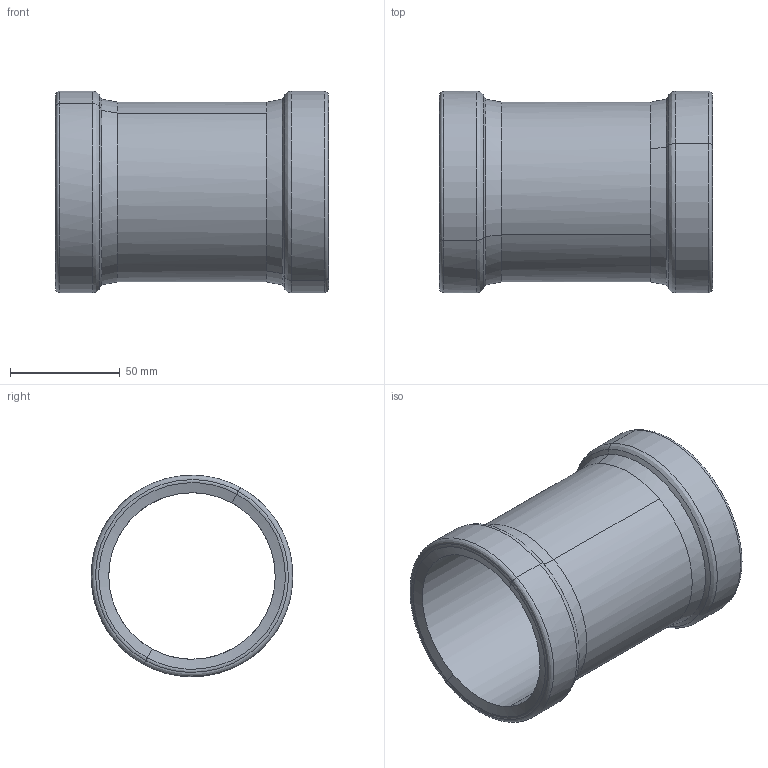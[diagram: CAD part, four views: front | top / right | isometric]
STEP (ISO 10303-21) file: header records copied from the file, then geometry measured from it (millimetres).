
FILE_DESCRIPTION(('STEP AP214'),'1');
FILE_NAME('pim0002575.stp','2015-03-18T15:10:10',('CAD-PIM'),('TransMagic, Inc.'),'TMR11sp0','TransMagic R11',' ');
FILE_SCHEMA(('AUTOMOTIVE_DESIGN'));
Length unit declared in the file: millimetre
Products named in the file (1): pim0002575
Bounding box: 125 x 91.88 x 91.85 mm (x, y, z)
Volume: 149164.5 mm3; surface area: 67501.1 mm2
Topology: 1 solids, 1 shells, 32 faces, 90 edges, 58 vertices
Faces by surface type: bspline 32
Entity records: 2044 total; most frequent: CARTESIAN_POINT 1313, ORIENTED_EDGE 180, EDGE_CURVE 90, VERTEX_POINT 58, STYLED_ITEM 33, PRESENTATION_STYLE_ASSIGNMENT 33, SURFACE_STYLE_USAGE 33, SURFACE_SIDE_STYLE 33
